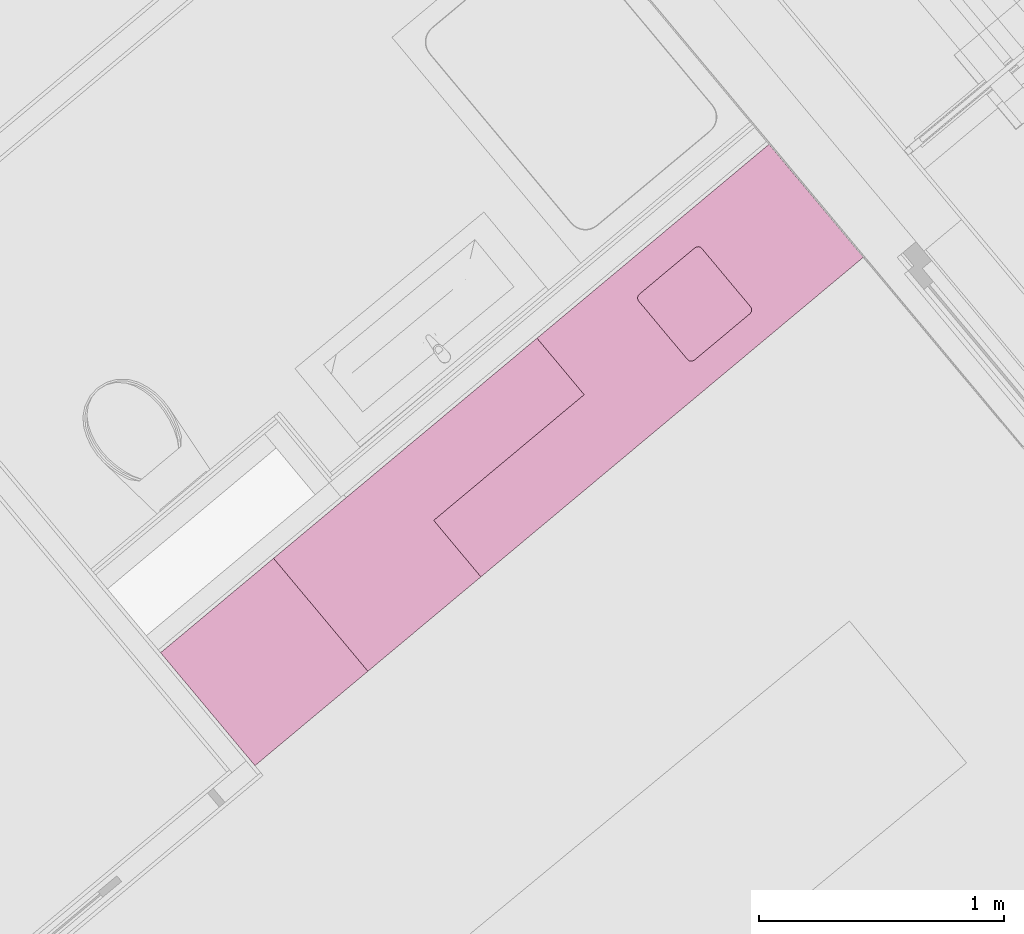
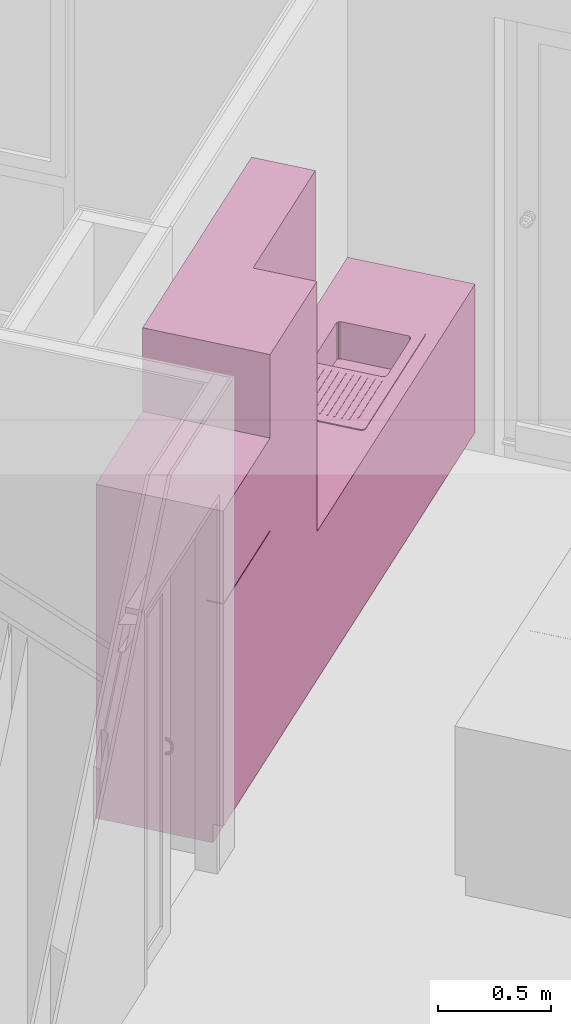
# One storey, part 58 of 58: 1 furniture element.
"""IFC4 building model written with IfcOpenShell, lengths in metres."""

from ifc_helpers import new_model, entity, si_unit, converted_unit, derived_unit, direction, frame, origin_with_axes, place, context, subcontext, project, spatial, polygons, source, transform, mapped, type_object, element, save


model = new_model("IFC4")

# Units and contexts
model_context = context("Model", 3, precision=1e-05, world=origin_with_axes(), true_north=direction((0.0, 1.0)))
body_context = subcontext(model_context, "Body", "Model", "MODEL_VIEW")
ifc_project = project(units=[si_unit("LENGTHUNIT", "METRE"), si_unit("AREAUNIT", "SQUARE_METRE"), si_unit("VOLUMEUNIT", "CUBIC_METRE"), converted_unit("PLANEANGLEUNIT", "DEGREE", entity("IfcPlaneAngleMeasure", 0.0174532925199), si_unit("PLANEANGLEUNIT", "RADIAN"), dimensions=[0, 0, 0, 0, 0, 0, 0]), converted_unit("TIMEUNIT", "Year", entity("IfcTimeMeasure", 31556926.0), si_unit("TIMEUNIT", "SECOND"), dimensions=[0, 0, 1, 0, 0, 0, 0]), si_unit("MASSUNIT", "GRAM", prefix="KILO"), si_unit("THERMODYNAMICTEMPERATUREUNIT", "DEGREE_CELSIUS"), si_unit("LUMINOUSINTENSITYUNIT", "LUMEN"), si_unit("ENERGYUNIT", "JOULE", prefix="MEGA"), derived_unit("THERMALCONDUCTANCEUNIT", [(si_unit("POWERUNIT", "WATT"), 1), (si_unit("LENGTHUNIT", "METRE"), -1), (si_unit("THERMODYNAMICTEMPERATUREUNIT", "KELVIN"), -1)]), derived_unit("SPECIFICHEATCAPACITYUNIT", [(si_unit("ENERGYUNIT", "JOULE"), 1), (si_unit("MASSUNIT", "GRAM", prefix="KILO"), -1), (si_unit("THERMODYNAMICTEMPERATUREUNIT", "KELVIN"), -1)]), derived_unit("MASSDENSITYUNIT", [(si_unit("MASSUNIT", "GRAM", prefix="KILO"), 1), (si_unit("VOLUMEUNIT", "CUBIC_METRE"), -1)])], contexts=[model_context])

# Site, building, storey
site_placement = place(None, frame((-0.00153261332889, -0.00661245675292, 0.0), z_axis=(0.0, 0.0, 1.0), x_axis=(1.0, 0.0, 0.0)))
site = spatial("IfcSite", under=ifc_project, at=site_placement, Name="Site", CompositionType="ELEMENT")
building_placement = place(site_placement, origin_with_axes())
building = spatial("IfcBuilding", under=site, at=building_placement, Name="Building", CompositionType="ELEMENT")
storey_placement = place(building_placement, frame((0.0, 0.0, 5.7), z_axis=(0.0, 0.0, 1.0), x_axis=(1.0, 0.0, 0.0)))
storey = spatial("IfcBuildingStorey", under=building, at=storey_placement, Name="DG1", CompositionType="ELEMENT", Elevation=5.7)

# Furniture
furniture_type = type_object("IfcFurnitureType", Name="Konzeptküche 26", AssemblyPlace="NOTDEFINED", PredefinedType="NOTDEFINED")
shared_shape = source(origin_with_axes(), body_context, "Body", "Tessellation", [
    polygons([(-0.968323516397, 0.0, 0.0), (-0.968323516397, 0.0, 0.1), (-3.0, 0.0, 0.1), (-3.0, 0.0, 0.0), (-0.968323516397, 0.55, 0.0), (-0.968323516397, 0.55, 0.1), (-3.0, 0.55, 0.1), (-3.0, 0.55, 0.0)], [[[1, 2, 3, 4]], [[5, 6, 2, 1]], [[2, 6, 7, 3]], [[4, 3, 7, 8]], [[1, 4, 8, 5]], [[8, 7, 6, 5]]], closed=True),
    polygons([(-0.968323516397, 0.6, 0.85), (-0.968323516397, 0.0, 0.85), (-3.0, 0.0, 0.85), (-3.0, 0.6, 0.85), (-1.79253770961, 0.055, 0.85), (-1.79253770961, 0.505, 0.85), (-2.54253770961, 0.505, 0.85), (-2.54253770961, 0.055, 0.85), (-0.968323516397, 0.6, 0.9), (-0.968323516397, 0.0, 0.9), (-3.0, 0.0, 0.9), (-3.0, 0.6, 0.9), (-1.79253770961, 0.505, 0.9), (-1.79253770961, 0.055, 0.9), (-2.54253770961, 0.505, 0.9), (-2.54253770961, 0.055, 0.9)], [[[1, 2, 3, 4], [5, 6, 7, 8]], [[2, 1, 9, 10]], [[3, 2, 10, 11]], [[4, 3, 11, 12]], [[1, 4, 12, 9]], [[13, 6, 5, 14]], [[15, 7, 6, 13]], [[16, 8, 7, 15]], [[14, 5, 8, 16]], [[11, 10, 9, 12], [14, 16, 15, 13]]], closed=True),
    polygons([(-0.968323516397, 0.6, 0.1), (-0.968323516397, 0.0, 0.1), (-3.0, 0.0, 0.1), (-3.0, 0.6, 0.1), (-1.79253770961, 0.055, 0.1), (-1.79253770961, 0.505, 0.1), (-2.54253770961, 0.505, 0.1), (-2.54253770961, 0.055, 0.1), (-0.968323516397, 0.6, 0.85), (-0.968323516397, 0.0, 0.85), (-3.0, 0.0, 0.85), (-3.0, 0.6, 0.85), (-1.79253770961, 0.505, 0.85), (-1.79253770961, 0.055, 0.85), (-2.54253770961, 0.505, 0.85), (-2.54253770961, 0.055, 0.85)], [[[1, 2, 3, 4], [5, 6, 7, 8]], [[2, 1, 9, 10]], [[3, 2, 10, 11]], [[4, 3, 11, 12]], [[1, 4, 12, 9]], [[13, 6, 5, 14]], [[15, 7, 6, 13]], [[16, 8, 7, 15]], [[14, 5, 8, 16]], [[11, 10, 9, 12], [14, 16, 15, 13]]], closed=True),
    polygons([(-0.968323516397, 0.0, 1.5), (-0.968323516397, 0.0, 2.25), (-1.76753770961, 0.0, 2.25), (-1.76753770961, 0.0, 1.5), (-0.968323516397, 0.3, 1.5), (-0.968323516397, 0.3, 2.25), (-1.76753770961, 0.3, 2.25), (-1.76753770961, 0.3, 1.5)], [[[1, 2, 3, 4]], [[5, 6, 2, 1]], [[2, 6, 7, 3]], [[4, 3, 7, 8]], [[1, 4, 8, 5]], [[8, 7, 6, 5]]], closed=True),
    polygons([(-0.368323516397, 0.52, 0.0), (-0.368323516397, 0.52, 0.1), (-0.368323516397, 0.55, 0.1), (-0.368323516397, 0.55, 0.0), (0.231676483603, 0.52, 0.0), (0.231676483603, 0.52, 0.1), (0.231676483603, 0.55, 0.1), (0.231676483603, 0.55, 0.0)], [[[1, 2, 3, 4]], [[5, 6, 2, 1]], [[2, 6, 7, 3]], [[4, 3, 7, 8]], [[1, 4, 8, 5]], [[8, 7, 6, 5]]], closed=True),
    polygons([(-0.368323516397, 0.52, 0.0), (-0.368323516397, 0.52, 1.8), (0.231676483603, 0.52, 1.8), (0.231676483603, 0.52, 0.0), (-0.368323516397, 0.0, 0.0), (-0.368323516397, 0.0, 1.8), (0.231676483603, 0.0, 1.8), (0.231676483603, 0.0, 0.0)], [[[1, 2, 3, 4]], [[5, 6, 2, 1]], [[2, 6, 7, 3]], [[4, 3, 7, 8]], [[1, 4, 8, 5]], [[8, 7, 6, 5]]], closed=True),
    polygons([(-0.368323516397, 0.5199, 0.1), (-0.368323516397, 0.5199, 1.2975), (-0.368323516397, 0.6, 1.2975), (-0.368323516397, 0.6, 0.1), (0.231676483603, 0.5199, 0.1), (0.231676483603, 0.5199, 1.2975), (0.231676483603, 0.6, 1.2975), (0.231676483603, 0.6, 0.1)], [[[1, 2, 3, 4]], [[5, 6, 2, 1]], [[2, 6, 7, 3]], [[4, 3, 7, 8]], [[1, 4, 8, 5]], [[8, 7, 6, 5]]], closed=True),
    polygons([(-0.368323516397, 0.5199, 1.3025), (-0.368323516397, 0.5199, 1.8), (-0.368323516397, 0.6, 1.8), (-0.368323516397, 0.6, 1.3025), (0.231676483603, 0.5199, 1.3025), (0.231676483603, 0.5199, 1.8), (0.231676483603, 0.6, 1.8), (0.231676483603, 0.6, 1.3025)], [[[1, 2, 3, 4]], [[5, 6, 2, 1]], [[2, 6, 7, 3]], [[4, 3, 7, 8]], [[1, 4, 8, 5]], [[8, 7, 6, 5]]], closed=True),
    polygons([(-2.49753770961, 0.48, 0.705), (-2.49753770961, 0.48, 0.9), (-2.20253770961, 0.48, 0.9), (-2.20253770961, 0.48, 0.705), (-2.50519137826, 0.47847759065, 0.705), (-2.50519137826, 0.47847759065, 0.9), (-2.19488404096, 0.47847759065, 0.9), (-2.19488404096, 0.47847759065, 0.705), (-2.18839557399, 0.474142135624, 0.705), (-2.18406011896, 0.467653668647, 0.705), (-2.18253770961, 0.46, 0.705), (-2.18253770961, 0.15, 0.705), (-2.18406011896, 0.142346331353, 0.705), (-2.18839557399, 0.135857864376, 0.705), (-2.19488404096, 0.13152240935, 0.705), (-2.20253770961, 0.13, 0.705), (-2.49753770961, 0.13, 0.705), (-2.50519137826, 0.13152240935, 0.705), (-2.51167984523, 0.135857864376, 0.705), (-2.51601530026, 0.142346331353, 0.705), (-2.51753770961, 0.15, 0.705), (-2.51753770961, 0.46, 0.705), (-2.51601530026, 0.467653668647, 0.705), (-2.51167984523, 0.474142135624, 0.705), (-2.51167984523, 0.474142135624, 0.9), (-2.18839557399, 0.474142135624, 0.9), (-2.18406011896, 0.467653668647, 0.9), (-2.18253770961, 0.46, 0.9), (-2.18253770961, 0.15, 0.9), (-2.18406011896, 0.142346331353, 0.9), (-2.18839557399, 0.135857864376, 0.9), (-2.19488404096, 0.13152240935, 0.9), (-2.20253770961, 0.13, 0.9), (-2.49753770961, 0.13, 0.9), (-2.50519137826, 0.13152240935, 0.9), (-2.51167984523, 0.135857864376, 0.9), (-2.51601530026, 0.142346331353, 0.9), (-2.51753770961, 0.15, 0.9), (-2.51753770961, 0.46, 0.9), (-2.51601530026, 0.467653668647, 0.9)], [[[1, 2, 3, 4]], [[5, 6, 2, 1]], [[4, 3, 7, 8]], [[1, 4, 8, 9, 10, 11, 12, 13, 14, 15, 16, 17, 18, 19, 20, 21, 22, 23, 24, 5]], [[24, 25, 6, 5]], [[8, 7, 26, 9]], [[9, 26, 27, 10]], [[10, 27, 28, 11]], [[11, 28, 29, 12]], [[12, 29, 30, 13]], [[13, 30, 31, 14]], [[14, 31, 32, 15]], [[15, 32, 33, 16]], [[16, 33, 34, 17]], [[17, 34, 35, 18]], [[18, 35, 36, 19]], [[19, 36, 37, 20]], [[20, 37, 38, 21]], [[21, 38, 39, 22]], [[22, 39, 40, 23]], [[23, 40, 25, 24]]], closed=False),
    polygons([(-2.54753770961, 0.53, 0.9), (-2.54753770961, 0.53, 0.905), (-1.78753770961, 0.53, 0.905), (-1.78753770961, 0.53, 0.9), (-2.55519137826, 0.52847759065, 0.9), (-2.55519137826, 0.52847759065, 0.905), (-2.56167984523, 0.524142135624, 0.905), (-2.56601530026, 0.517653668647, 0.905), (-2.56753770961, 0.51, 0.905), (-2.56753770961, 0.05, 0.905), (-2.56601530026, 0.0423463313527, 0.905), (-2.56167984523, 0.0358578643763, 0.905), (-2.55519137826, 0.0315224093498, 0.905), (-2.54753770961, 0.03, 0.905), (-1.78753770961, 0.03, 0.905), (-1.77988404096, 0.0315224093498, 0.905), (-1.77339557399, 0.0358578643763, 0.905), (-1.76906011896, 0.0423463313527, 0.905), (-1.76753770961, 0.05, 0.905), (-1.76753770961, 0.51, 0.905), (-1.76906011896, 0.517653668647, 0.905), (-1.77339557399, 0.524142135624, 0.905), (-1.77988404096, 0.52847759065, 0.905), (-2.49753770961, 0.48, 0.905), (-2.20253770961, 0.48, 0.905), (-2.19488404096, 0.47847759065, 0.905), (-2.18839557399, 0.474142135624, 0.905), (-2.18406011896, 0.467653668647, 0.905), (-2.18253770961, 0.46, 0.905), (-2.18253770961, 0.15, 0.905), (-2.18406011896, 0.142346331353, 0.905), (-2.18839557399, 0.135857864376, 0.905), (-2.19488404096, 0.13152240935, 0.905), (-2.20253770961, 0.13, 0.905), (-2.49753770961, 0.13, 0.905), (-2.50519137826, 0.13152240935, 0.905), (-2.51167984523, 0.135857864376, 0.905), (-2.51601530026, 0.142346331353, 0.905), (-2.51753770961, 0.15, 0.905), (-2.51753770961, 0.46, 0.905), (-2.51601530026, 0.467653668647, 0.905), (-2.51167984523, 0.474142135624, 0.905), (-2.50519137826, 0.47847759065, 0.905), (-1.77988404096, 0.52847759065, 0.9), (-1.77339557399, 0.524142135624, 0.9), (-1.76906011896, 0.517653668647, 0.9), (-1.76753770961, 0.51, 0.9), (-1.76753770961, 0.05, 0.9), (-1.76906011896, 0.0423463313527, 0.9), (-1.77339557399, 0.0358578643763, 0.9), (-1.77988404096, 0.0315224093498, 0.9), (-1.78753770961, 0.03, 0.9), (-2.54753770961, 0.03, 0.9), (-2.55519137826, 0.0315224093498, 0.9), (-2.56167984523, 0.0358578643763, 0.9), (-2.56601530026, 0.0423463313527, 0.9), (-2.56753770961, 0.05, 0.9), (-2.56753770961, 0.51, 0.9), (-2.56601530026, 0.517653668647, 0.9), (-2.56167984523, 0.524142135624, 0.9), (-2.49753770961, 0.48, 0.9), (-2.50519137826, 0.47847759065, 0.9), (-2.51167984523, 0.474142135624, 0.9), (-2.51601530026, 0.467653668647, 0.9), (-2.51753770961, 0.46, 0.9), (-2.51753770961, 0.15, 0.9), (-2.51601530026, 0.142346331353, 0.9), (-2.51167984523, 0.135857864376, 0.9), (-2.50519137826, 0.13152240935, 0.9), (-2.49753770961, 0.13, 0.9), (-2.20253770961, 0.13, 0.9), (-2.19488404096, 0.13152240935, 0.9), (-2.18839557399, 0.135857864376, 0.9), (-2.18406011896, 0.142346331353, 0.9), (-2.18253770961, 0.15, 0.9), (-2.18253770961, 0.46, 0.9), (-2.18406011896, 0.467653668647, 0.9), (-2.18839557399, 0.474142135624, 0.9), (-2.19488404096, 0.47847759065, 0.9), (-2.20253770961, 0.48, 0.9)], [[[1, 2, 3, 4]], [[5, 6, 2, 1]], [[2, 6, 7, 8, 9, 10, 11, 12, 13, 14, 15, 16, 17, 18, 19, 20, 21, 22, 23, 3], [24, 25, 26, 27, 28, 29, 30, 31, 32, 33, 34, 35, 36, 37, 38, 39, 40, 41, 42, 43]], [[4, 3, 23, 44]], [[1, 4, 44, 45, 46, 47, 48, 49, 50, 51, 52, 53, 54, 55, 56, 57, 58, 59, 60, 5], [61, 62, 63, 64, 65, 66, 67, 68, 69, 70, 71, 72, 73, 74, 75, 76, 77, 78, 79, 80]], [[60, 7, 6, 5]], [[59, 8, 7, 60]], [[58, 9, 8, 59]], [[57, 10, 9, 58]], [[56, 11, 10, 57]], [[55, 12, 11, 56]], [[54, 13, 12, 55]], [[53, 14, 13, 54]], [[52, 15, 14, 53]], [[51, 16, 15, 52]], [[50, 17, 16, 51]], [[49, 18, 17, 50]], [[48, 19, 18, 49]], [[47, 20, 19, 48]], [[46, 21, 20, 47]], [[45, 22, 21, 46]], [[44, 23, 22, 45]], [[80, 25, 24, 61]], [[79, 26, 25, 80]], [[78, 27, 26, 79]], [[77, 28, 27, 78]], [[76, 29, 28, 77]], [[75, 30, 29, 76]], [[74, 31, 30, 75]], [[73, 32, 31, 74]], [[72, 33, 32, 73]], [[71, 34, 33, 72]], [[70, 35, 34, 71]], [[69, 36, 35, 70]], [[68, 37, 36, 69]], [[67, 38, 37, 68]], [[66, 39, 38, 67]], [[65, 40, 39, 66]], [[64, 41, 40, 65]], [[63, 42, 41, 64]], [[62, 43, 42, 63]], [[61, 24, 43, 62]]], closed=True),
    polygons([(-2.15253770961, 0.475, 0.905), (-2.15253770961, 0.475, 0.907), (-1.84753770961, 0.475, 0.907), (-1.84753770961, 0.475, 0.905), (-2.15253770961, 0.47, 0.905), (-2.15253770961, 0.47, 0.907), (-1.84753770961, 0.47, 0.907), (-1.84753770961, 0.47, 0.905)], [[[1, 2, 3, 4]], [[5, 6, 2, 1]], [[2, 6, 7, 3]], [[4, 3, 7, 8]], [[1, 4, 8, 5]], [[8, 7, 6, 5]]], closed=True),
    polygons([(-2.15253770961, 0.441, 0.905), (-2.15253770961, 0.441, 0.907), (-1.81753770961, 0.441, 0.907), (-1.81753770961, 0.441, 0.905), (-2.15253770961, 0.436, 0.905), (-2.15253770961, 0.436, 0.907), (-1.81753770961, 0.436, 0.907), (-1.81753770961, 0.436, 0.905)], [[[1, 2, 3, 4]], [[5, 6, 2, 1]], [[2, 6, 7, 3]], [[4, 3, 7, 8]], [[1, 4, 8, 5]], [[8, 7, 6, 5]]], closed=True),
    polygons([(-2.15253770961, 0.407, 0.905), (-2.15253770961, 0.407, 0.907), (-1.81753770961, 0.407, 0.907), (-1.81753770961, 0.407, 0.905), (-2.15253770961, 0.402, 0.905), (-2.15253770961, 0.402, 0.907), (-1.81753770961, 0.402, 0.907), (-1.81753770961, 0.402, 0.905)], [[[1, 2, 3, 4]], [[5, 6, 2, 1]], [[2, 6, 7, 3]], [[4, 3, 7, 8]], [[1, 4, 8, 5]], [[8, 7, 6, 5]]], closed=True),
    polygons([(-2.15253770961, 0.373, 0.905), (-2.15253770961, 0.373, 0.907), (-1.81753770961, 0.373, 0.907), (-1.81753770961, 0.373, 0.905), (-2.15253770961, 0.368, 0.905), (-2.15253770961, 0.368, 0.907), (-1.81753770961, 0.368, 0.907), (-1.81753770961, 0.368, 0.905)], [[[1, 2, 3, 4]], [[5, 6, 2, 1]], [[2, 6, 7, 3]], [[4, 3, 7, 8]], [[1, 4, 8, 5]], [[8, 7, 6, 5]]], closed=True),
    polygons([(-2.15253770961, 0.339, 0.905), (-2.15253770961, 0.339, 0.907), (-1.81753770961, 0.339, 0.907), (-1.81753770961, 0.339, 0.905), (-2.15253770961, 0.334, 0.905), (-2.15253770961, 0.334, 0.907), (-1.81753770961, 0.334, 0.907), (-1.81753770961, 0.334, 0.905)], [[[1, 2, 3, 4]], [[5, 6, 2, 1]], [[2, 6, 7, 3]], [[4, 3, 7, 8]], [[1, 4, 8, 5]], [[8, 7, 6, 5]]], closed=True),
    polygons([(-2.15253770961, 0.305, 0.905), (-2.15253770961, 0.305, 0.907), (-1.81753770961, 0.305, 0.907), (-1.81753770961, 0.305, 0.905), (-2.15253770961, 0.3, 0.905), (-2.15253770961, 0.3, 0.907), (-1.81753770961, 0.3, 0.907), (-1.81753770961, 0.3, 0.905)], [[[1, 2, 3, 4]], [[5, 6, 2, 1]], [[2, 6, 7, 3]], [[4, 3, 7, 8]], [[1, 4, 8, 5]], [[8, 7, 6, 5]]], closed=True),
    polygons([(-2.15253770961, 0.271, 0.905), (-2.15253770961, 0.271, 0.907), (-1.81753770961, 0.271, 0.907), (-1.81753770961, 0.271, 0.905), (-2.15253770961, 0.266, 0.905), (-2.15253770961, 0.266, 0.907), (-1.81753770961, 0.266, 0.907), (-1.81753770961, 0.266, 0.905)], [[[1, 2, 3, 4]], [[5, 6, 2, 1]], [[2, 6, 7, 3]], [[4, 3, 7, 8]], [[1, 4, 8, 5]], [[8, 7, 6, 5]]], closed=True),
    polygons([(-2.15253770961, 0.237, 0.905), (-2.15253770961, 0.237, 0.907), (-1.81753770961, 0.237, 0.907), (-1.81753770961, 0.237, 0.905), (-2.15253770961, 0.232, 0.905), (-2.15253770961, 0.232, 0.907), (-1.81753770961, 0.232, 0.907), (-1.81753770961, 0.232, 0.905)], [[[1, 2, 3, 4]], [[5, 6, 2, 1]], [[2, 6, 7, 3]], [[4, 3, 7, 8]], [[1, 4, 8, 5]], [[8, 7, 6, 5]]], closed=True),
    polygons([(-2.15253770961, 0.203, 0.905), (-2.15253770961, 0.203, 0.907), (-1.81753770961, 0.203, 0.907), (-1.81753770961, 0.203, 0.905), (-2.15253770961, 0.198, 0.905), (-2.15253770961, 0.198, 0.907), (-1.81753770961, 0.198, 0.907), (-1.81753770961, 0.198, 0.905)], [[[1, 2, 3, 4]], [[5, 6, 2, 1]], [[2, 6, 7, 3]], [[4, 3, 7, 8]], [[1, 4, 8, 5]], [[8, 7, 6, 5]]], closed=True),
    polygons([(-2.15253770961, 0.169, 0.905), (-2.15253770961, 0.169, 0.907), (-1.81753770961, 0.169, 0.907), (-1.81753770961, 0.169, 0.905), (-2.15253770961, 0.164, 0.905), (-2.15253770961, 0.164, 0.907), (-1.81753770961, 0.164, 0.907), (-1.81753770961, 0.164, 0.905)], [[[1, 2, 3, 4]], [[5, 6, 2, 1]], [[2, 6, 7, 3]], [[4, 3, 7, 8]], [[1, 4, 8, 5]], [[8, 7, 6, 5]]], closed=True),
    polygons([(-2.15253770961, 0.135, 0.905), (-2.15253770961, 0.135, 0.907), (-1.84753770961, 0.135, 0.907), (-1.84753770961, 0.135, 0.905), (-2.15253770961, 0.13, 0.905), (-2.15253770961, 0.13, 0.907), (-1.84753770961, 0.13, 0.907), (-1.84753770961, 0.13, 0.905)], [[[1, 2, 3, 4]], [[5, 6, 2, 1]], [[2, 6, 7, 3]], [[4, 3, 7, 8]], [[1, 4, 8, 5]], [[8, 7, 6, 5]]], closed=True),
    polygons([(-0.968323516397, 0.55, 0.0), (-0.968323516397, 0.55, 0.1), (-0.368323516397, 0.55, 0.1), (-0.368323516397, 0.55, 0.0), (-0.968323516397, 0.0, 0.0), (-0.968323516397, 0.0, 0.1), (-0.368323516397, 0.0, 0.1), (-0.368323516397, 0.0, 0.0)], [[[1, 2, 3, 4]], [[5, 6, 2, 1]], [[2, 6, 7, 3]], [[4, 3, 7, 8]], [[1, 4, 8, 5]], [[8, 7, 6, 5]]], closed=True),
    polygons([(-0.968323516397, 0.6, 0.1), (-0.968323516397, 0.6, 2.25), (-0.368323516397, 0.6, 2.25), (-0.368323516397, 0.6, 0.1), (-0.968323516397, 0.0, 0.1), (-0.968323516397, 0.0, 2.25), (-0.368323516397, 0.0, 2.25), (-0.368323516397, 0.0, 0.1)], [[[1, 2, 3, 4]], [[5, 6, 2, 1]], [[2, 6, 7, 3]], [[4, 3, 7, 8]], [[1, 4, 8, 5]], [[8, 7, 6, 5]]], closed=True),
])
furniture_placement = place(storey_placement, frame((6.58657113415, 23.0964081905, 0.22), z_axis=(0.0, 0.0, 1.0), x_axis=(-0.767365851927, -0.641209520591, 0.0)))
element("IfcFurniture", 1, at=furniture_placement, inside=storey, type_object=furniture_type, Name="Objekt-0002", PredefinedType="NOTDEFINED", context=body_context, shape_type="MappedRepresentation", body=[
    mapped(shared_shape, transform((0.0, 0.0, 0.0))),
])

save(model, "model.ifc")
